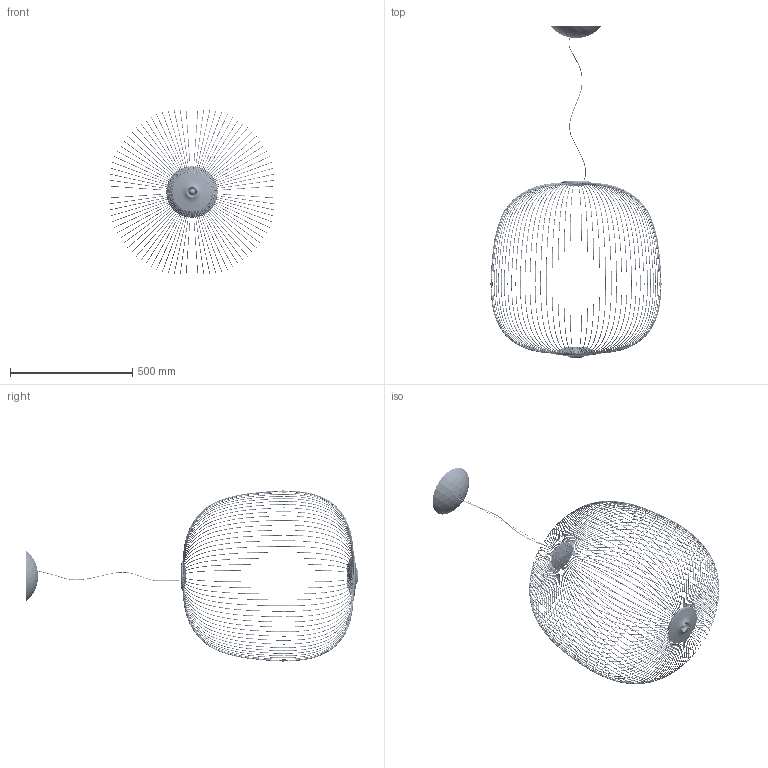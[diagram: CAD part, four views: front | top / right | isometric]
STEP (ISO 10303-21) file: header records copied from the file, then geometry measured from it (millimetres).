
FILE_DESCRIPTION (( 'STEP AP203' ), '1' );
FILE_NAME ('264_2-LARGE_S_LD_3D.STEP', '2021-03-30T10:39:50', ( '' ), ( '' ), 'SwSTEP 2.0', 'SolidWorks 2021', '' );
FILE_SCHEMA (( 'CONFIG_CONTROL_DESIGN' ));
Length unit declared in the file: millimetre
Products named in the file (32): VITEAC2.9X6.5; 264P06; 264M33; P 5016-3-7-11; P 5922-18; 264M26-R1; VTBFCP 4x10_VTBFCP 4X10; M5922-17; 264M28; 264P08; 111P22; ROS3_1cavo_acc_SPOKES; LLHOL CLL030; 264M41; M DADO10-1; 264Z02; 264Z01-R1; LLED STAR-A0; VTCB 4x16; 169P02; VITEB 3X4; 264_2-LARGE_S_LD_3D; 264M32; LLED COB6 582; 264P05; 264M40; VTSCP 3X12; VTBAC 3X6_ISO 7045 - M3 x 6 - Z --- 6N; 264M37; VITEAC2.9X9.5; 264P07; BLOCCAFILO 4
Assembly tree (57 placements, depth 3):
  264_2-LARGE_S_LD_3D
    264Z01-R1
      264M37
      264M26-R1
      LLHOL CLL030
      LLED COB6 582
      LLED STAR-A0
      264P08
      VTCB 4x16  x4
      VITEAC2.9X6.5  x2
      VITEAC2.9X9.5  x2
      264P06  x2
      264M33  x2
      VTBAC 3X6_ISO 7045 - M3 x 6 - Z --- 6N  x4
      169P02
      111P22
      264P07
    264M41  x2
    264Z02
      264P05
      264M28
      M DADO10-1
      P 5922-18
      M5922-17
      P 5016-3-7-11
      VTSCP 3X12  x6
      264P06  x2
      BLOCCAFILO 4
      VTBFCP 4x10_VTBFCP 4X10  x2
    264M40  x2
    264M32  x4
    VITEB 3X4  x4
    ROS3_1cavo_acc_SPOKES
Bounding box: 699.99 x 1358.46 x 699.99 mm (x, y, z)
Volume: 1809307.8 mm3; surface area: 1057696.3 mm2
Topology: 143 solids, 143 shells, 7841 faces, 18556 edges, 11017 vertices
Faces by surface type: torus 2637, plane 2016, cylinder 1417, bspline 981, cone 646, sphere 144
Entity records: 222575 total; most frequent: CARTESIAN_POINT 93584, ORIENTED_EDGE 27748, DIRECTION 24873, EDGE_CURVE 13874, AXIS2_PLACEMENT_3D 10737, VERTEX_POINT 8438, CIRCLE 5930, EDGE_LOOP 5900
